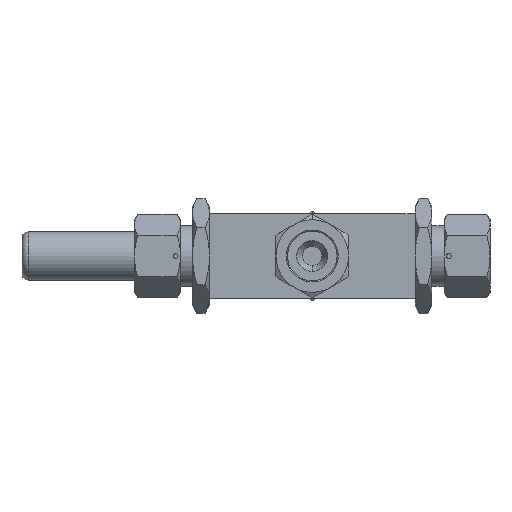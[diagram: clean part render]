
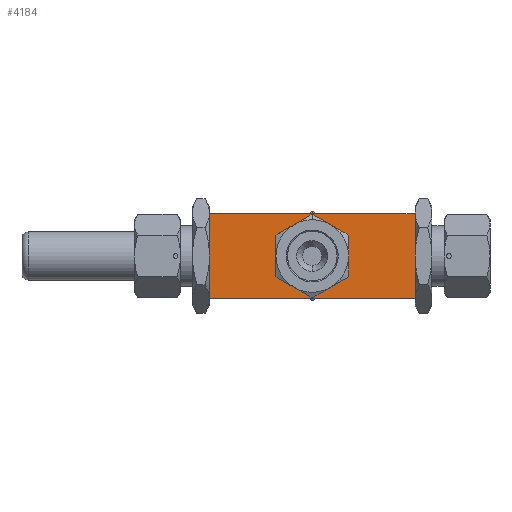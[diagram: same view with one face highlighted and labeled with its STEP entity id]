
A CAD part, front view. The second image highlights one B-rep face of the part: STEP entity #4184.
In plain terms, the highlighted planar face has unit normal (0, -1, 0).
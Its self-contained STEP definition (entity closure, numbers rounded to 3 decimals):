
#45 = CARTESIAN_POINT ( 'NONE',  ( 0., -32.5, 0. ) ) ;
#75 = ORIENTED_EDGE ( 'NONE', *, *, #941, .F. ) ;
#271 = CARTESIAN_POINT ( 'NONE',  ( -7.5, -32.5, 12.99 ) ) ;
#369 = CARTESIAN_POINT ( 'NONE',  ( 0., -32.5, 0. ) ) ;
#371 = AXIS2_PLACEMENT_3D ( 'NONE', #1491, #5273, #2610 ) ;
#457 = CARTESIAN_POINT ( 'NONE',  ( 15., -32.5, 0. ) ) ;
#542 = VERTEX_POINT ( 'NONE', #6434 ) ;
#672 = VERTEX_POINT ( 'NONE', #6038 ) ;
#761 = AXIS2_PLACEMENT_3D ( 'NONE', #6988, #1057, #5946 ) ;
#781 = CIRCLE ( 'NONE', #4086, 15. ) ;
#799 = EDGE_CURVE ( 'NONE', #672, #1946, #3271, .T. ) ;
#809 = DIRECTION ( 'NONE',  ( 1., 0., 0. ) ) ;
#856 = LINE ( 'NONE', #1392, #6215 ) ;
#906 = ORIENTED_EDGE ( 'NONE', *, *, #5528, .F. ) ;
#908 = DIRECTION ( 'NONE',  ( 0., 0., -1. ) ) ;
#941 = EDGE_CURVE ( 'NONE', #3216, #4286, #781, .T. ) ;
#1057 = DIRECTION ( 'NONE',  ( 0., -1., 0. ) ) ;
#1184 = CARTESIAN_POINT ( 'NONE',  ( -7.5, -32.5, -12.99 ) ) ;
#1250 = DIRECTION ( 'NONE',  ( 0., 0., -1. ) ) ;
#1255 = VECTOR ( 'NONE', #6520, 1000. ) ;
#1269 = ORIENTED_EDGE ( 'NONE', *, *, #3250, .F. ) ;
#1392 = CARTESIAN_POINT ( 'NONE',  ( 42.5, -32.5, 17.5 ) ) ;
#1491 = CARTESIAN_POINT ( 'NONE',  ( 0., -32.5, 0. ) ) ;
#1521 = VECTOR ( 'NONE', #809, 1000. ) ;
#1623 = DIRECTION ( 'NONE',  ( 0., 0., 1. ) ) ;
#1646 = CIRCLE ( 'NONE', #371, 15. ) ;
#1858 = ORIENTED_EDGE ( 'NONE', *, *, #799, .F. ) ;
#1895 = EDGE_CURVE ( 'NONE', #3790, #2099, #3735, .T. ) ;
#1918 = VERTEX_POINT ( 'NONE', #5414 ) ;
#1946 = VERTEX_POINT ( 'NONE', #3124 ) ;
#2041 = CARTESIAN_POINT ( 'NONE',  ( -42.5, -32.5, -17.5 ) ) ;
#2086 = ORIENTED_EDGE ( 'NONE', *, *, #1895, .F. ) ;
#2099 = VERTEX_POINT ( 'NONE', #6767 ) ;
#2180 = EDGE_CURVE ( 'NONE', #4286, #4386, #2270, .T. ) ;
#2197 = EDGE_CURVE ( 'NONE', #2099, #1918, #5450, .T. ) ;
#2265 = DIRECTION ( 'NONE',  ( 0., 0., -1. ) ) ;
#2270 = CIRCLE ( 'NONE', #5776, 15. ) ;
#2545 = ORIENTED_EDGE ( 'NONE', *, *, #3156, .F. ) ;
#2564 = DIRECTION ( 'NONE',  ( 0., -1., 0. ) ) ;
#2610 = DIRECTION ( 'NONE',  ( 0., 0., -1. ) ) ;
#2738 = CARTESIAN_POINT ( 'NONE',  ( 7.5, -32.5, 12.99 ) ) ;
#2885 = AXIS2_PLACEMENT_3D ( 'NONE', #45, #3896, #3956 ) ;
#2957 = EDGE_CURVE ( 'NONE', #4639, #542, #2998, .T. ) ;
#2998 = LINE ( 'NONE', #3031, #1521 ) ;
#3031 = CARTESIAN_POINT ( 'NONE',  ( -42.5, -32.5, -17.5 ) ) ;
#3041 = DIRECTION ( 'NONE',  ( 0., 0., -1. ) ) ;
#3124 = CARTESIAN_POINT ( 'NONE',  ( 42.5, -32.5, 17.5 ) ) ;
#3156 = EDGE_CURVE ( 'NONE', #1918, #3216, #1646, .T. ) ;
#3216 = VERTEX_POINT ( 'NONE', #457 ) ;
#3234 = AXIS2_PLACEMENT_3D ( 'NONE', #6402, #3675, #1623 ) ;
#3250 = EDGE_CURVE ( 'NONE', #4386, #3423, #6094, .T. ) ;
#3271 = LINE ( 'NONE', #7012, #1255 ) ;
#3296 = AXIS2_PLACEMENT_3D ( 'NONE', #369, #2564, #3652 ) ;
#3352 = CIRCLE ( 'NONE', #2885, 15. ) ;
#3423 = VERTEX_POINT ( 'NONE', #4552 ) ;
#3652 = DIRECTION ( 'NONE',  ( 0., 0., -1. ) ) ;
#3675 = DIRECTION ( 'NONE',  ( 0., 1., 0. ) ) ;
#3735 = CIRCLE ( 'NONE', #761, 15. ) ;
#3790 = VERTEX_POINT ( 'NONE', #1184 ) ;
#3896 = DIRECTION ( 'NONE',  ( 0., -1., 0. ) ) ;
#3898 = DIRECTION ( 'NONE',  ( 0., -1., 0. ) ) ;
#3956 = DIRECTION ( 'NONE',  ( 0., 0., -1. ) ) ;
#4086 = AXIS2_PLACEMENT_3D ( 'NONE', #4461, #3898, #2265 ) ;
#4184 = ADVANCED_FACE ( 'NONE', ( #4780, #4861 ), #7055, .F. ) ;
#4286 = VERTEX_POINT ( 'NONE', #2738 ) ;
#4386 = VERTEX_POINT ( 'NONE', #271 ) ;
#4411 = ORIENTED_EDGE ( 'NONE', *, *, #2957, .T. ) ;
#4461 = CARTESIAN_POINT ( 'NONE',  ( 0., -32.5, 0. ) ) ;
#4519 = DIRECTION ( 'NONE',  ( 0., -1., 0. ) ) ;
#4552 = CARTESIAN_POINT ( 'NONE',  ( -15., -32.5, 0. ) ) ;
#4595 = ORIENTED_EDGE ( 'NONE', *, *, #6797, .F. ) ;
#4639 = VERTEX_POINT ( 'NONE', #2041 ) ;
#4780 = FACE_OUTER_BOUND ( 'NONE', #6177, .T. ) ;
#4844 = DIRECTION ( 'NONE',  ( 0., 0., -1. ) ) ;
#4861 = FACE_BOUND ( 'NONE', #6751, .T. ) ;
#4915 = ORIENTED_EDGE ( 'NONE', *, *, #6973, .T. ) ;
#5131 = LINE ( 'NONE', #6791, #5267 ) ;
#5267 = VECTOR ( 'NONE', #4844, 1000. ) ;
#5273 = DIRECTION ( 'NONE',  ( 0., -1., 0. ) ) ;
#5414 = CARTESIAN_POINT ( 'NONE',  ( 7.5, -32.5, -12.99 ) ) ;
#5450 = CIRCLE ( 'NONE', #3296, 15. ) ;
#5528 = EDGE_CURVE ( 'NONE', #1946, #542, #856, .T. ) ;
#5776 = AXIS2_PLACEMENT_3D ( 'NONE', #6919, #6380, #908 ) ;
#5946 = DIRECTION ( 'NONE',  ( 0., 0., -1. ) ) ;
#6038 = CARTESIAN_POINT ( 'NONE',  ( -42.5, -32.5, 17.5 ) ) ;
#6084 = ORIENTED_EDGE ( 'NONE', *, *, #2197, .F. ) ;
#6094 = CIRCLE ( 'NONE', #7007, 15. ) ;
#6177 = EDGE_LOOP ( 'NONE', ( #4411, #906, #1858, #4915 ) ) ;
#6215 = VECTOR ( 'NONE', #3041, 1000. ) ;
#6380 = DIRECTION ( 'NONE',  ( 0., -1., 0. ) ) ;
#6402 = CARTESIAN_POINT ( 'NONE',  ( -42.5, -32.5, 17.5 ) ) ;
#6434 = CARTESIAN_POINT ( 'NONE',  ( 42.5, -32.5, -17.5 ) ) ;
#6520 = DIRECTION ( 'NONE',  ( 1., 0., 0. ) ) ;
#6687 = CARTESIAN_POINT ( 'NONE',  ( 0., -32.5, 0. ) ) ;
#6751 = EDGE_LOOP ( 'NONE', ( #6998, #75, #2545, #6084, #2086, #4595, #1269 ) ) ;
#6767 = CARTESIAN_POINT ( 'NONE',  ( 0., -32.5, -15. ) ) ;
#6791 = CARTESIAN_POINT ( 'NONE',  ( -42.5, -32.5, 17.5 ) ) ;
#6797 = EDGE_CURVE ( 'NONE', #3423, #3790, #3352, .T. ) ;
#6919 = CARTESIAN_POINT ( 'NONE',  ( 0., -32.5, 0. ) ) ;
#6973 = EDGE_CURVE ( 'NONE', #672, #4639, #5131, .T. ) ;
#6988 = CARTESIAN_POINT ( 'NONE',  ( 0., -32.5, 0. ) ) ;
#6998 = ORIENTED_EDGE ( 'NONE', *, *, #2180, .F. ) ;
#7007 = AXIS2_PLACEMENT_3D ( 'NONE', #6687, #4519, #1250 ) ;
#7012 = CARTESIAN_POINT ( 'NONE',  ( -42.5, -32.5, 17.5 ) ) ;
#7055 = PLANE ( 'NONE',  #3234 ) ;
